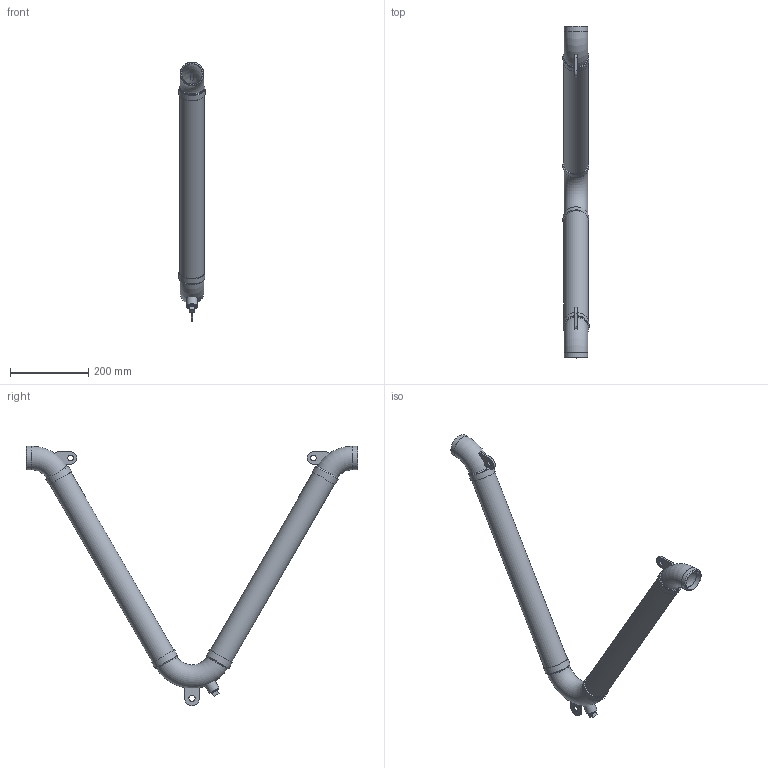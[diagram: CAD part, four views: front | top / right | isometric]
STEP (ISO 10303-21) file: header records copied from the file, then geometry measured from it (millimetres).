
FILE_DESCRIPTION(/* description */ (''),/* implementation_level */ '2;1');
FILE_NAME(/* name */ 'C:\001_Work\Designs\CSAVWN\CSAVWN-2x33.5.stp',/* time_stamp */ '2016-06-02T08:05:30-04:00',/* author */ ('rramoutar'),/* organization */ (''),/* preprocessor_version */ 'ST-DEVELOPER v15.6',/* originating_system */ 'Autodesk Inventor 2015',/* authorisation */ '');
FILE_SCHEMA (('CONFIG_CONTROL_DESIGN'));
Length unit declared in the file: inch
Products named in the file (1): CSAVWN-2x33.5
Bounding box: 66.8 x 850.9 x 665.16 mm (x, y, z)
Volume: 396625.1 mm3; surface area: 619098.8 mm2
Topology: 16 solids, 16 shells, 97 faces, 191 edges, 125 vertices
Faces by surface type: plane 50, cylinder 33, cone 8, torus 6
Full cylindrical faces by diameter (mm): 14.287 x2, 15.875 x1, 18.256 x1, 21.336 x3, 28.575 x1, 52.502 x2, 60.325 x6, 61.976 x6, 62.789 x2, 66.739 x4
Entity records: 2489 total; most frequent: CARTESIAN_POINT 472, DIRECTION 406, ORIENTED_EDGE 274, AXIS2_PLACEMENT_3D 181, EDGE_LOOP 172, EDGE_CURVE 137, VERTEX_POINT 115, STYLED_ITEM 113
